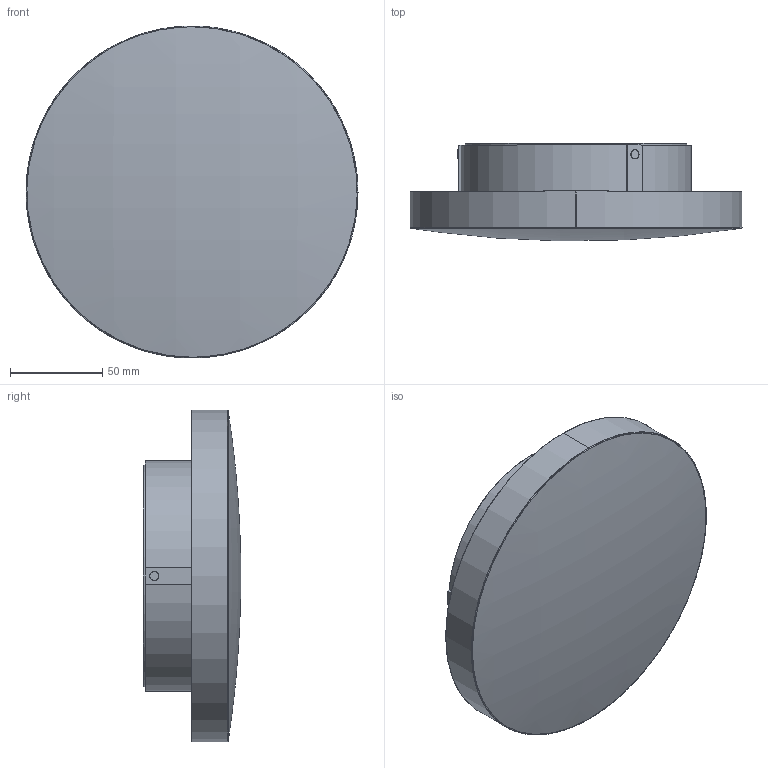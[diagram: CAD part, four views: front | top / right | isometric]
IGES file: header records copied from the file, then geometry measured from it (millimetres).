
Start section: SolidWorks IGES file using analytic representation for surfaces
Global section: file name: C:\Users\anna.bielnik\Desktop\ARIA M lampa kinkiet 111\lampa kinkiet œredni m.IGS; native system: SolidWorks 2023; preprocessor: SolidWorks 2023; author: anna.bielnik; date: 241024.130713; units: millimetre
Bounding box: 180 x 52.87 x 180 mm (x, y, z)
Surface area: 193541.1 mm2 (no closed solid volume)
Topology: 0 solids, 0 shells, 64 faces, 1880 edges, 1880 vertices
Faces by surface type: revolution 35, bspline 29
